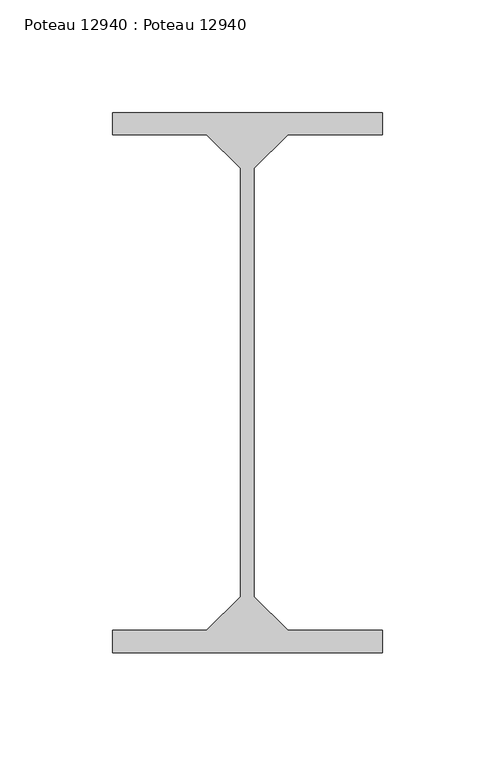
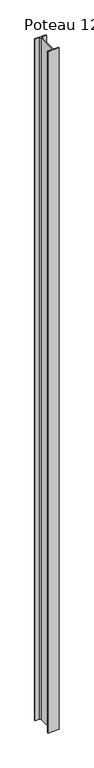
"""IFC4 building model written with IfcOpenShell, lengths in millimetres: beam geometry, Poteau 12940 : Poteau 12940."""

from ifc_helpers import new_model, si_unit, frame, origin, place, context, project, spatial, polyline, outline, extrude, source, transform, mapped, element, save


def poteau_12940_poteau_12940_f40dcef4(model_context):
    return source(origin(), model_context, "Body", "SweptSolid", [
        extrude(outline(polyline([(3715.5999999, -120.2), (3730.5999999, -135.2), (3772.4999999, -135.2), (3772.4999999, -145.0), (3652.4999999, -145.0), (3652.4999999, -135.2), (3694.3999999, -135.2), (3709.3999999, -120.2), (3709.3999999, 70.2), (3694.3999999, 85.2), (3652.4999999, 85.2), (3652.4999999, 95.0), (3772.4999999, 95.0), (3772.4999999, 85.2), (3730.5999999, 85.2), (3715.5999999, 70.2), (3715.5999999, -120.2)])), frame((0.0, 0.0, -250.0), z_axis=(0.0, 0.0, 1.0), x_axis=(1.0, 0.0, 0.0)), (0.0, 0.0, 1.0), 7575.3134819),
    ])


if __name__ == "__main__":
    model = new_model("IFC4")
    model_context = context("Model", 3, world=origin())
    ifc_project = project(units=[si_unit("LENGTHUNIT", "METRE", prefix="MILLI")], contexts=[model_context])
    site = spatial("IfcSite", under=ifc_project)
    building = spatial("IfcBuilding", under=site)
    placement = place(None, origin())
    poteau_12940_poteau_12940_shape = poteau_12940_poteau_12940_f40dcef4(model_context)
    element("IfcBeam", 1, ObjectType="Poteau 12940 : Poteau 12940", at=placement, inside=building, context=model_context, shape_type="MappedRepresentation", body=[
        mapped(poteau_12940_poteau_12940_shape, transform((0.0, 0.0, 0.0), x_axis=(1.0, 0.0, 0.0), y_axis=(0.0, 1.0, 0.0), z_axis=(0.0, 0.0, 1.0))),
    ])
    save(model, "model.ifc")
